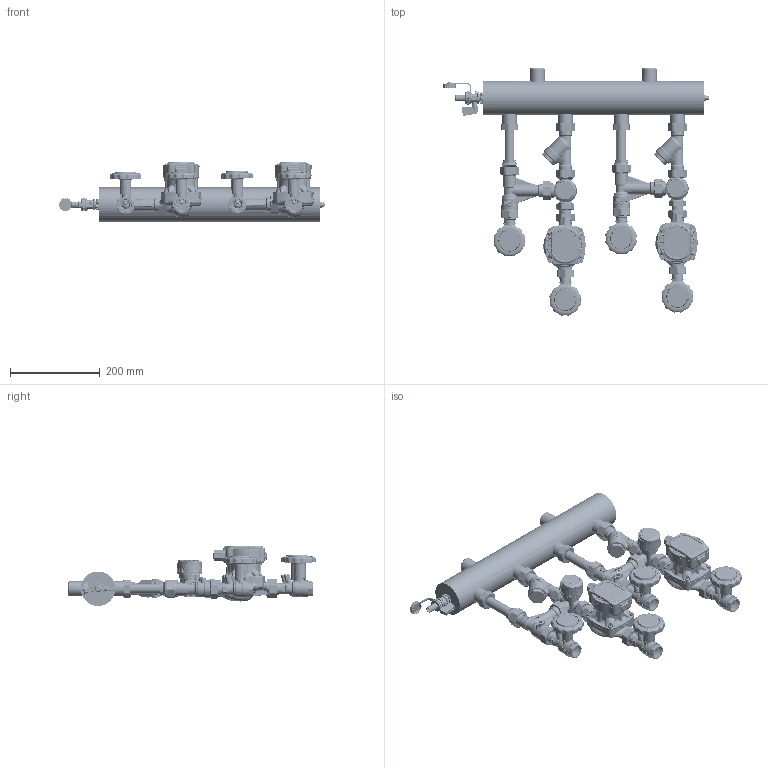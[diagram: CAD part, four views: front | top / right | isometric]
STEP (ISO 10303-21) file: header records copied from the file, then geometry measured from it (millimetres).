
FILE_DESCRIPTION (( 'STEP AP214' ), '1' );
FILE_NAME ('9099620.STEP', '2022-10-14T09:16:01', ( '' ), ( '' ), 'SwSTEP 2.0', 'SolidWorks 2022', '' );
FILE_SCHEMA (( 'AUTOMOTIVE_DESIGN' ));
Length unit declared in the file: millimetre
Products named in the file (60): APH-100-15-7-130_LFP; Sockel Mischerbet. _AFRISO-PL__2017-05-31; Guarnizione-840-34-ptfe-52705005; 3438-Tappo Filtro Lavorato_2; DECKEL0G304; Corpo-Valvola-DN20-Lavorato_1; O-ring-4125-PE32-52905023_2; Dado-gruppo-imar-ch37-d23-Lavorato-51505423; 42407; Inserto-Maniglia-1870-52005071; 90405017-1963-1DFx34F-GIALLO-MAN-NERA_ASSIEME; Anello-Elastico-553-S-1-53105253_Per assemblaggio_1; 1961-S-Portasonda-_X2_0158_X0_6-Lavorato-30805032; Corpo-1963-DN20-Lavorato-30105655; GEH_USE; Anello-Elastico-1460-Ř28x2-53105460_2; 70405017-1963-1DFx34F-GIALLO-MAN-NERA_ASSIEME; Asta-840-12-Unificata-30505300; Check-dn25-HT-con-alette_1; Grano-M4x6-52110003; odpowietrznik_reczny; Raccordo-840-34-Lavorato-31605312_Sabbiata; GEWINDEDICHTRING G1_2; DECKEL G3_4; maniglia-1870-1871_Nera; 20405011-1963-34-GIALLO_ASSIEME; Guarnizione-840-34-ptfe-52705005_1; Sprzeglo; Dado-553-S-1-Lavorato-31505553; O-ring-2018-EPDM 70 N01C; Corpo-Filtro-Lavorato_2; Pokrętło ARV; 10405027-1963-1DFx34F-Maniglia-Termometro-Nera_TERMOMETRO_1; Raccordo-840-34-Lavorato-31605312_Sabbiata_1; 3384-DN20-Raccordo-1xTubo-Ř22-31705004; Assieme-Filtro1; GEWINDERING G1_2; Sfera-300-34-Lavorata-33208005; ARV_nowa generacja (pokrętło); GRIFF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
Assembly tree (81 placements, depth 6):
  9099620
    Assieme-Filtro1  x2
      Corpo-Filtro-Lavorato_2
      Anello-Elastico-1460-Ř28x2-53105460_2
      Dado-1460- 1-Lavorato-31505460_2
      3438-Tappo Filtro Lavorato_2
      Filtro-1410-114-53505410_2
      O-ring-4125-PE32-52905023_2
    Assieme-Valvola-Tee-Check_ASSIEME_1  x2
      Corpo-Valvola-DN20-Lavorato_1
      Sfera-300-34-Lavorata-33208005_1
      Guarnizione-840-34-ptfe-52705005_1
      Raccordo-840-34-Lavorato-31605312_Sabbiata_1
      Dado-1460- 1-Lavorato-31505460_2
      Anello-Elastico-1460-Ř28x2-53105460_2
      Check-dn25-HT-con-alette_1
    M1605404-3404-1x1-Prolunga-Montata_1  x2
      3404-Prolunga-1Fx1DF-Lavorata-L1605404_1
      Anello-Elastico-553-S-1-53105253_Per assemblaggio_1
      Dado-553-S-1-Lavorato-31505553_1
    Pokrętło ARV  x2
      ARV_nowa generacja (pokrętło)
      Sockel Mischerbet. _AFRISO-PL__2017-05-31
    ARV 362  x2
    10405027-1963-1DFx34F-Maniglia-Termometro-Nera_TERMOMETRO_1  x4
      70405017-1963-1DFx34F-GIALLO-MAN-NERA_ASSIEME
        90405017-1963-1DFx34F-GIALLO-MAN-NERA_ASSIEME
          20405011-1963-34-GIALLO_ASSIEME
            Corpo-1963-DN20-Lavorato-30105655
            Sfera-300-34-Lavorata-33208005
            Guarnizione-840-34-ptfe-52705005  x2
            Asta-840-12-Unificata-30505300
            O-ring-2018-EPDM 70 N01C  x2
            Raccordo-840-34-Lavorato-31605312_Sabbiata
          maniglia-1870-1871_Nera
          Dado-Fissaggio-Maniglia-1870-A-31505091
          Inserto-Maniglia-1870-52005071
          Grano-M4x6-52110003
          1961-S-Portasonda-_X2_0158_X0_6-Lavorato-30805032
        Anello-Elastico-553-S-1-53105253
        Dado-553-S-1-Lavorato-31505553
    APH-100-15-7-130_LFP  x2
    Tubo-22-1DFx1M  x2
      Tubo-22
      3384-DN20-Raccordo-1xTubo-Ř22-31705004
      Dado-gruppo-imar-ch37-d23-Lavorato-51505423
    pokretlo na termometr  x4
    42407
      KFE_HAHN G1_2 PTFE
        SPINDEL
        GEWINDEDICHTRING G1_2
        GEWINDERING G1_2
        GRIFF
        T_LLE
        MUTTER G3_4
        GEH_USE
        HALTELASCHE
        DECKEL G3_4
        DECKEL0G304
          FLACHDICHTUNG
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Bounding box: 594.76 x 552.78 x 133.8 mm (x, y, z)
Volume: 4564469.5 mm3; surface area: 967785.6 mm2
Topology: 156 solids, 170 shells, 22600 faces, 55602 edges, 34066 vertices
Faces by surface type: plane 7097, bspline 5869, cone 4677, cylinder 4289, torus 540, sphere 128
Entity records: 477428 total; most frequent: CARTESIAN_POINT 244369, ORIENTED_EDGE 44160, DIRECTION 32663, EDGE_CURVE 22081, VERTEX_POINT 13556, AXIS2_PLACEMENT_3D 12239, EDGE_LOOP 9526, FACE_OUTER_BOUND 9027
